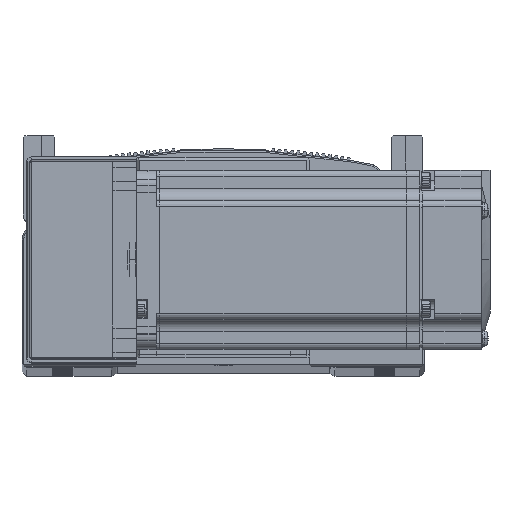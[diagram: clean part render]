
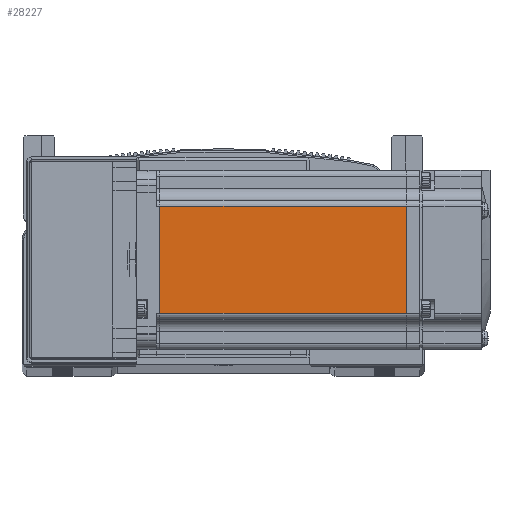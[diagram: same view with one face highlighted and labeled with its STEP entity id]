
A CAD part, top view. The second image highlights one B-rep face of the part: STEP entity #28227.
In plain terms, the highlighted planar face has unit normal (0, 0, 1) as drawn and (0, 0, -1) by its records, which use the part's own axes.
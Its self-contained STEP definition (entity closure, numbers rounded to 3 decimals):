
#15804 = EDGE_CURVE ( 'NONE', #63498, #63151, #16211, .T. ) ;
#16211 = LINE ( 'NONE', #66484, #16232 ) ;
#16232 = VECTOR ( 'NONE', #66504, 1000. ) ;
#24273 = FACE_OUTER_BOUND ( 'NONE', #84480, .T. ) ;
#28227 = ADVANCED_FACE ( 'NONE', ( #24273 ), #44689, .T. ) ;
#44689 = PLANE ( 'NONE',  #67788 ) ;
#44696 = CARTESIAN_POINT ( 'NONE',  ( -6.5, 25., -30. ) ) ;
#44699 = DIRECTION ( 'NONE',  ( -1., 0., 0. ) ) ;
#44709 = DIRECTION ( 'NONE',  ( 0., 0., -1. ) ) ;
#54899 = ORIENTED_EDGE ( 'NONE', *, *, #59728, .T. ) ;
#55005 = ORIENTED_EDGE ( 'NONE', *, *, #15804, .T. ) ;
#55081 = ORIENTED_EDGE ( 'NONE', *, *, #59670, .T. ) ;
#55142 = ORIENTED_EDGE ( 'NONE', *, *, #59673, .T. ) ;
#59670 = EDGE_CURVE ( 'NONE', #63277, #63124, #64367, .T. ) ;
#59673 = EDGE_CURVE ( 'NONE', #63124, #63498, #64357, .T. ) ;
#59728 = EDGE_CURVE ( 'NONE', #63151, #63277, #64414, .T. ) ;
#63124 = VERTEX_POINT ( 'NONE', #85737 ) ;
#63151 = VERTEX_POINT ( 'NONE', #85808 ) ;
#63277 = VERTEX_POINT ( 'NONE', #85865 ) ;
#63498 = VERTEX_POINT ( 'NONE', #85873 ) ;
#64317 = VECTOR ( 'NONE', #86894, 1000. ) ;
#64355 = VECTOR ( 'NONE', #86690, 1000. ) ;
#64357 = LINE ( 'NONE', #86694, #64359 ) ;
#64359 = VECTOR ( 'NONE', #86681, 1000. ) ;
#64367 = LINE ( 'NONE', #86669, #64355 ) ;
#64414 = LINE ( 'NONE', #86896, #64317 ) ;
#66484 = CARTESIAN_POINT ( 'NONE',  ( -6.5, 18., -30. ) ) ;
#66504 = DIRECTION ( 'NONE',  ( 1., 0., 0. ) ) ;
#67788 = AXIS2_PLACEMENT_3D ( 'NONE', #44696, #44709, #44699 ) ;
#84480 = EDGE_LOOP ( 'NONE', ( #54899, #55081, #55142, #55005 ) ) ;
#85737 = CARTESIAN_POINT ( 'NONE',  ( -90.45, -18., -30. ) ) ;
#85808 = CARTESIAN_POINT ( 'NONE',  ( -7.75, 18., -30. ) ) ;
#85865 = CARTESIAN_POINT ( 'NONE',  ( -7.75, -18., -30. ) ) ;
#85873 = CARTESIAN_POINT ( 'NONE',  ( -90.45, 18., -30. ) ) ;
#86669 = CARTESIAN_POINT ( 'NONE',  ( -6.5, -18., -30. ) ) ;
#86681 = DIRECTION ( 'NONE',  ( 0., 1., 0. ) ) ;
#86690 = DIRECTION ( 'NONE',  ( -1., 0., 0. ) ) ;
#86694 = CARTESIAN_POINT ( 'NONE',  ( -90.45, 25., -30. ) ) ;
#86894 = DIRECTION ( 'NONE',  ( 0., -1., 0. ) ) ;
#86896 = CARTESIAN_POINT ( 'NONE',  ( -7.75, 25., -30. ) ) ;
